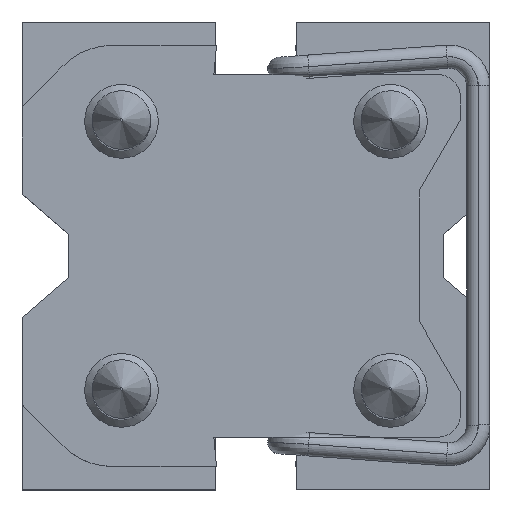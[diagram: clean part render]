
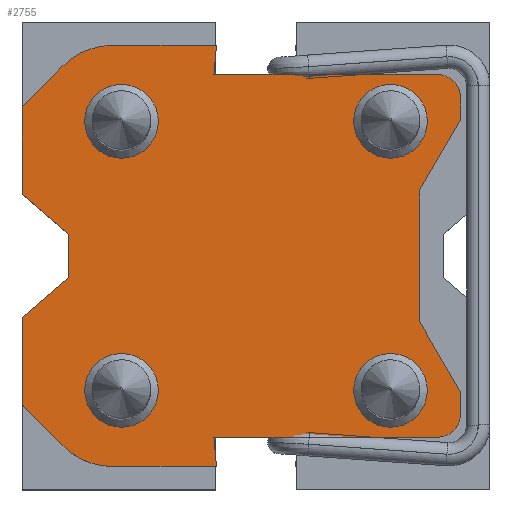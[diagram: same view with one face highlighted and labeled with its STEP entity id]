
A CAD part, top view. The second image highlights one B-rep face of the part: STEP entity #2755.
In plain terms, the highlighted planar face has unit normal (0, 0, 1) as drawn and (0, 0, -1) by its records, which use the part's own axes.
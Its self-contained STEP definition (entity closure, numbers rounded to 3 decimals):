
#155=PLANE('',#3018);
#296=LINE('',#4311,#562);
#301=LINE('',#4326,#567);
#304=LINE('',#4332,#570);
#329=LINE('',#4402,#595);
#330=LINE('',#4404,#596);
#331=LINE('',#4406,#597);
#332=LINE('',#4408,#598);
#333=LINE('',#4410,#599);
#334=LINE('',#4414,#600);
#335=LINE('',#4416,#601);
#336=LINE('',#4418,#602);
#337=LINE('',#4422,#603);
#338=LINE('',#4424,#604);
#339=LINE('',#4426,#605);
#340=LINE('',#4428,#606);
#341=LINE('',#4430,#607);
#342=LINE('',#4434,#608);
#343=LINE('',#4436,#609);
#562=VECTOR('',#3467,1000.);
#567=VECTOR('',#3480,1000.);
#570=VECTOR('',#3485,1000.);
#595=VECTOR('',#3534,1000.);
#596=VECTOR('',#3535,1000.);
#597=VECTOR('',#3536,1000.);
#598=VECTOR('',#3537,1000.);
#599=VECTOR('',#3538,1000.);
#600=VECTOR('',#3541,1000.);
#601=VECTOR('',#3542,1000.);
#602=VECTOR('',#3543,1000.);
#603=VECTOR('',#3546,1000.);
#604=VECTOR('',#3547,1000.);
#605=VECTOR('',#3548,1000.);
#606=VECTOR('',#3549,1000.);
#607=VECTOR('',#3550,1000.);
#608=VECTOR('',#3553,1000.);
#609=VECTOR('',#3554,1000.);
#1018=ORIENTED_EDGE('',*,*,#1670,.T.);
#1019=ORIENTED_EDGE('',*,*,#1671,.T.);
#1020=ORIENTED_EDGE('',*,*,#1672,.T.);
#1021=ORIENTED_EDGE('',*,*,#1673,.T.);
#1022=ORIENTED_EDGE('',*,*,#1633,.F.);
#1023=ORIENTED_EDGE('',*,*,#1629,.T.);
#1024=ORIENTED_EDGE('',*,*,#1639,.F.);
#1025=ORIENTED_EDGE('',*,*,#1674,.F.);
#1026=ORIENTED_EDGE('',*,*,#1675,.F.);
#1027=ORIENTED_EDGE('',*,*,#1676,.F.);
#1028=ORIENTED_EDGE('',*,*,#1677,.F.);
#1029=ORIENTED_EDGE('',*,*,#1678,.F.);
#1030=ORIENTED_EDGE('',*,*,#1679,.F.);
#1031=ORIENTED_EDGE('',*,*,#1680,.F.);
#1032=ORIENTED_EDGE('',*,*,#1681,.F.);
#1033=ORIENTED_EDGE('',*,*,#1682,.F.);
#1034=ORIENTED_EDGE('',*,*,#1683,.F.);
#1035=ORIENTED_EDGE('',*,*,#1684,.F.);
#1036=ORIENTED_EDGE('',*,*,#1685,.F.);
#1037=ORIENTED_EDGE('',*,*,#1686,.F.);
#1038=ORIENTED_EDGE('',*,*,#1687,.F.);
#1039=ORIENTED_EDGE('',*,*,#1688,.F.);
#1040=ORIENTED_EDGE('',*,*,#1689,.F.);
#1041=ORIENTED_EDGE('',*,*,#1690,.T.);
#1042=ORIENTED_EDGE('',*,*,#1691,.F.);
#1043=ORIENTED_EDGE('',*,*,#1636,.T.);
#1629=EDGE_CURVE('',#1983,#1984,#296,.T.);
#1633=EDGE_CURVE('',#1983,#1987,#2181,.T.);
#1636=EDGE_CURVE('',#1989,#1987,#301,.T.);
#1639=EDGE_CURVE('',#1991,#1984,#304,.T.);
#1670=EDGE_CURVE('',#2020,#2020,#2189,.T.);
#1671=EDGE_CURVE('',#2021,#2021,#2190,.T.);
#1672=EDGE_CURVE('',#2022,#2022,#2191,.T.);
#1673=EDGE_CURVE('',#2023,#2023,#2192,.T.);
#1674=EDGE_CURVE('',#2024,#1991,#329,.T.);
#1675=EDGE_CURVE('',#2025,#2024,#330,.T.);
#1676=EDGE_CURVE('',#2026,#2025,#331,.T.);
#1677=EDGE_CURVE('',#2027,#2026,#332,.T.);
#1678=EDGE_CURVE('',#2028,#2027,#333,.T.);
#1679=EDGE_CURVE('',#2029,#2028,#2193,.T.);
#1680=EDGE_CURVE('',#2030,#2029,#334,.T.);
#1681=EDGE_CURVE('',#2031,#2030,#335,.T.);
#1682=EDGE_CURVE('',#2032,#2031,#336,.T.);
#1683=EDGE_CURVE('',#2033,#2032,#2194,.T.);
#1684=EDGE_CURVE('',#2034,#2033,#337,.T.);
#1685=EDGE_CURVE('',#2035,#2034,#338,.T.);
#1686=EDGE_CURVE('',#2036,#2035,#339,.T.);
#1687=EDGE_CURVE('',#2037,#2036,#340,.T.);
#1688=EDGE_CURVE('',#2038,#2037,#341,.T.);
#1689=EDGE_CURVE('',#2039,#2038,#2195,.T.);
#1690=EDGE_CURVE('',#2039,#2040,#342,.T.);
#1691=EDGE_CURVE('',#1989,#2040,#343,.T.);
#1983=VERTEX_POINT('',#4312);
#1984=VERTEX_POINT('',#4313);
#1987=VERTEX_POINT('',#4321);
#1989=VERTEX_POINT('',#4327);
#1991=VERTEX_POINT('',#4333);
#2020=VERTEX_POINT('',#4395);
#2021=VERTEX_POINT('',#4397);
#2022=VERTEX_POINT('',#4399);
#2023=VERTEX_POINT('',#4401);
#2024=VERTEX_POINT('',#4403);
#2025=VERTEX_POINT('',#4405);
#2026=VERTEX_POINT('',#4407);
#2027=VERTEX_POINT('',#4409);
#2028=VERTEX_POINT('',#4411);
#2029=VERTEX_POINT('',#4413);
#2030=VERTEX_POINT('',#4415);
#2031=VERTEX_POINT('',#4417);
#2032=VERTEX_POINT('',#4419);
#2033=VERTEX_POINT('',#4421);
#2034=VERTEX_POINT('',#4423);
#2035=VERTEX_POINT('',#4425);
#2036=VERTEX_POINT('',#4427);
#2037=VERTEX_POINT('',#4429);
#2038=VERTEX_POINT('',#4431);
#2039=VERTEX_POINT('',#4433);
#2040=VERTEX_POINT('',#4435);
#2181=CIRCLE('',#3007,6.);
#2189=CIRCLE('',#3019,3.15);
#2190=CIRCLE('',#3020,3.15);
#2191=CIRCLE('',#3021,3.15);
#2192=CIRCLE('',#3022,3.15);
#2193=CIRCLE('',#3023,6.);
#2194=CIRCLE('',#3024,2.);
#2195=CIRCLE('',#3025,2.);
#2337=EDGE_LOOP('',(#1018));
#2338=EDGE_LOOP('',(#1019));
#2339=EDGE_LOOP('',(#1020));
#2340=EDGE_LOOP('',(#1021));
#2341=EDGE_LOOP('',(#1022,#1023,#1024,#1025,#1026,#1027,#1028,#1029,#1030,
#1031,#1032,#1033,#1034,#1035,#1036,#1037,#1038,#1039,#1040,#1041,#1042,
#1043));
#2531=FACE_BOUND('',#2337,.T.);
#2532=FACE_BOUND('',#2338,.T.);
#2533=FACE_BOUND('',#2339,.T.);
#2534=FACE_BOUND('',#2340,.T.);
#2535=FACE_BOUND('',#2341,.T.);
#2755=ADVANCED_FACE('',(#2531,#2532,#2533,#2534,#2535),#155,.F.);
#3007=AXIS2_PLACEMENT_3D('',#4320,#3473,#3474);
#3018=AXIS2_PLACEMENT_3D('',#4393,#3524,#3525);
#3019=AXIS2_PLACEMENT_3D('',#4394,#3526,#3527);
#3020=AXIS2_PLACEMENT_3D('',#4396,#3528,#3529);
#3021=AXIS2_PLACEMENT_3D('',#4398,#3530,#3531);
#3022=AXIS2_PLACEMENT_3D('',#4400,#3532,#3533);
#3023=AXIS2_PLACEMENT_3D('',#4412,#3539,#3540);
#3024=AXIS2_PLACEMENT_3D('',#4420,#3544,#3545);
#3025=AXIS2_PLACEMENT_3D('',#4432,#3551,#3552);
#3467=DIRECTION('',(0.707,-0.707,0.));
#3473=DIRECTION('',(0.,0.,1.));
#3474=DIRECTION('',(1.,0.,0.));
#3480=DIRECTION('',(1.,0.,0.));
#3485=DIRECTION('',(0.,1.,0.));
#3524=DIRECTION('',(0.,0.,1.));
#3525=DIRECTION('',(1.,0.,0.));
#3526=DIRECTION('',(0.,0.,1.));
#3527=DIRECTION('',(1.,0.,0.));
#3528=DIRECTION('',(0.,0.,1.));
#3529=DIRECTION('',(1.,0.,0.));
#3530=DIRECTION('',(0.,0.,1.));
#3531=DIRECTION('',(1.,0.,0.));
#3532=DIRECTION('',(0.,0.,1.));
#3533=DIRECTION('',(1.,0.,0.));
#3534=DIRECTION('',(0.76,0.649,0.));
#3535=DIRECTION('',(0.,1.,0.));
#3536=DIRECTION('',(-0.76,0.649,0.));
#3537=DIRECTION('',(0.,1.,0.));
#3538=DIRECTION('',(0.707,0.707,0.));
#3539=DIRECTION('',(0.,0.,1.));
#3540=DIRECTION('',(1.,0.,0.));
#3541=DIRECTION('',(1.,0.,0.));
#3542=DIRECTION('',(-0.087,-0.996,0.));
#3543=DIRECTION('',(1.,0.,0.));
#3544=DIRECTION('',(0.,0.,1.));
#3545=DIRECTION('',(0.,1.,0.));
#3546=DIRECTION('',(0.,-1.,0.));
#3547=DIRECTION('',(-0.5,-0.866,0.));
#3548=DIRECTION('',(0.,-1.,0.));
#3549=DIRECTION('',(0.5,-0.866,0.));
#3550=DIRECTION('',(0.,-1.,0.));
#3551=DIRECTION('',(0.,0.,1.));
#3552=DIRECTION('',(0.,-1.,0.));
#3553=DIRECTION('',(1.,0.,0.));
#3554=DIRECTION('',(0.087,-0.996,0.));
#4311=CARTESIAN_POINT('',(16.371,16.371,-5.));
#4312=CARTESIAN_POINT('',(16.5,16.243,-5.));
#4313=CARTESIAN_POINT('',(20.,12.743,-5.));
#4320=CARTESIAN_POINT('',(12.257,12.,-5.));
#4321=CARTESIAN_POINT('',(12.257,18.,-5.));
#4326=CARTESIAN_POINT('',(-20.,18.,-5.));
#4327=CARTESIAN_POINT('',(3.381,18.,-5.));
#4332=CARTESIAN_POINT('',(20.,-20.,-5.));
#4333=CARTESIAN_POINT('',(20.,5.266,-5.));
#4393=CARTESIAN_POINT('',(-20.,20.,-5.));
#4394=CARTESIAN_POINT('',(11.5,-11.5,-5.));
#4395=CARTESIAN_POINT('',(14.65,-11.5,-5.));
#4396=CARTESIAN_POINT('',(11.5,11.5,-5.));
#4397=CARTESIAN_POINT('',(14.65,11.5,-5.));
#4398=CARTESIAN_POINT('',(-11.5,11.5,-5.));
#4399=CARTESIAN_POINT('',(-8.35,11.5,-5.));
#4400=CARTESIAN_POINT('',(-11.5,-11.5,-5.));
#4401=CARTESIAN_POINT('',(-8.35,-11.5,-5.));
#4402=CARTESIAN_POINT('',(16.,1.85,-5.));
#4403=CARTESIAN_POINT('',(16.,1.85,-5.));
#4404=CARTESIAN_POINT('',(16.,-1.85,-5.));
#4405=CARTESIAN_POINT('',(16.,-1.85,-5.));
#4406=CARTESIAN_POINT('',(20.,-5.266,-5.));
#4407=CARTESIAN_POINT('',(20.,-5.266,-5.));
#4408=CARTESIAN_POINT('',(20.,-20.,-5.));
#4409=CARTESIAN_POINT('',(20.,-12.743,-5.));
#4410=CARTESIAN_POINT('',(16.371,-16.371,-5.));
#4411=CARTESIAN_POINT('',(16.5,-16.243,-5.));
#4412=CARTESIAN_POINT('',(12.257,-12.,-5.));
#4413=CARTESIAN_POINT('',(12.257,-18.,-5.));
#4414=CARTESIAN_POINT('',(-20.,-18.,-5.));
#4415=CARTESIAN_POINT('',(3.381,-18.,-5.));
#4416=CARTESIAN_POINT('',(3.6,-15.5,-5.));
#4417=CARTESIAN_POINT('',(3.6,-15.5,-5.));
#4418=CARTESIAN_POINT('',(-3.5,-15.5,-5.));
#4419=CARTESIAN_POINT('',(-15.5,-15.5,-5.));
#4420=CARTESIAN_POINT('',(-15.5,-13.5,-5.));
#4421=CARTESIAN_POINT('',(-17.5,-13.5,-5.));
#4422=CARTESIAN_POINT('',(-17.5,-11.7,-5.));
#4423=CARTESIAN_POINT('',(-17.5,-11.7,-5.));
#4424=CARTESIAN_POINT('',(-14.,-5.638,-5.));
#4425=CARTESIAN_POINT('',(-14.,-5.638,-5.));
#4426=CARTESIAN_POINT('',(-14.,-5.638,-5.));
#4427=CARTESIAN_POINT('',(-14.,5.638,-5.));
#4428=CARTESIAN_POINT('',(-14.,5.638,-5.));
#4429=CARTESIAN_POINT('',(-17.5,11.7,-5.));
#4430=CARTESIAN_POINT('',(-17.5,13.5,-5.));
#4431=CARTESIAN_POINT('',(-17.5,13.5,-5.));
#4432=CARTESIAN_POINT('',(-15.5,13.5,-5.));
#4433=CARTESIAN_POINT('',(-15.5,15.5,-5.));
#4434=CARTESIAN_POINT('',(-3.5,15.5,-5.));
#4435=CARTESIAN_POINT('',(3.6,15.5,-5.));
#4436=CARTESIAN_POINT('',(3.206,20.,-5.));
